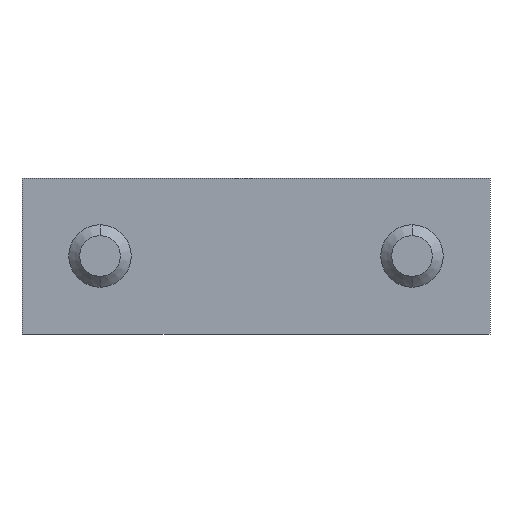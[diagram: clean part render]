
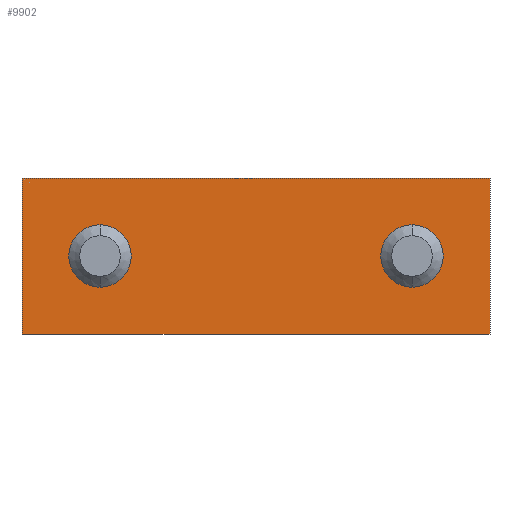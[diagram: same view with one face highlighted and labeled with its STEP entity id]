
A CAD part, front view. The second image highlights one B-rep face of the part: STEP entity #9902.
In plain terms, the highlighted planar face has unit normal (0, -1, 0).
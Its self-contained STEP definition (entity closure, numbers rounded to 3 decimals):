
#444 = CARTESIAN_POINT ( 'NONE',  ( -64.47, 29.419, 0. ) ) ;
#511 = EDGE_CURVE ( 'NONE', #10569, #19202, #17631, .T. ) ;
#587 = CARTESIAN_POINT ( 'NONE',  ( -71.47, 29.419, 5. ) ) ;
#671 = EDGE_CURVE ( 'NONE', #11227, #9600, #5471, .T. ) ;
#702 = CARTESIAN_POINT ( 'NONE',  ( -44.47, 29.419, 0. ) ) ;
#773 = CARTESIAN_POINT ( 'NONE',  ( -66.47, 29.419, 0. ) ) ;
#778 = EDGE_LOOP ( 'NONE', ( #13316, #7548, #10252, #9438 ) ) ;
#1852 = CARTESIAN_POINT ( 'NONE',  ( -56.47, 29.419, -5. ) ) ;
#1883 = FACE_OUTER_BOUND ( 'NONE', #778, .T. ) ;
#2281 = ORIENTED_EDGE ( 'NONE', *, *, #12134, .F. ) ;
#2491 = DIRECTION ( 'NONE',  ( 1., 0., 0. ) ) ;
#3374 = VECTOR ( 'NONE', #18722, 1000. ) ;
#3440 = VERTEX_POINT ( 'NONE', #14284 ) ;
#3627 = DIRECTION ( 'NONE',  ( 1., 0., 0. ) ) ;
#3829 = LINE ( 'NONE', #7927, #21543 ) ;
#4293 = CARTESIAN_POINT ( 'NONE',  ( -48.47, 29.419, 0. ) ) ;
#4449 = LINE ( 'NONE', #11923, #13056 ) ;
#4487 = AXIS2_PLACEMENT_3D ( 'NONE', #14303, #7200, #3627 ) ;
#4980 = DIRECTION ( 'NONE',  ( 0., 1., 0. ) ) ;
#5193 = CARTESIAN_POINT ( 'NONE',  ( -41.47, 29.419, 5. ) ) ;
#5471 = CIRCLE ( 'NONE', #4487, 2. ) ;
#5622 = DIRECTION ( 'NONE',  ( 0., -1., 0. ) ) ;
#5889 = VERTEX_POINT ( 'NONE', #587 ) ;
#6037 = DIRECTION ( 'NONE',  ( 0., -1., 0. ) ) ;
#6232 = AXIS2_PLACEMENT_3D ( 'NONE', #15935, #5622, #17680 ) ;
#6439 = FACE_BOUND ( 'NONE', #13999, .T. ) ;
#7031 = VERTEX_POINT ( 'NONE', #444 ) ;
#7200 = DIRECTION ( 'NONE',  ( 0., -1., 0. ) ) ;
#7310 = VECTOR ( 'NONE', #13897, 1000. ) ;
#7548 = ORIENTED_EDGE ( 'NONE', *, *, #18513, .T. ) ;
#7927 = CARTESIAN_POINT ( 'NONE',  ( -56.47, 29.419, 5. ) ) ;
#8396 = ORIENTED_EDGE ( 'NONE', *, *, #671, .F. ) ;
#8489 = ORIENTED_EDGE ( 'NONE', *, *, #17556, .T. ) ;
#9063 = CARTESIAN_POINT ( 'NONE',  ( -41.47, 29.419, -5. ) ) ;
#9438 = ORIENTED_EDGE ( 'NONE', *, *, #12223, .T. ) ;
#9600 = VERTEX_POINT ( 'NONE', #702 ) ;
#9627 = EDGE_CURVE ( 'NONE', #3440, #7031, #16705, .T. ) ;
#9670 = DIRECTION ( 'NONE',  ( -1., 0., 0. ) ) ;
#9902 = ADVANCED_FACE ( 'NONE', ( #6439, #10475, #1883 ), #21044, .T. ) ;
#10048 = CARTESIAN_POINT ( 'NONE',  ( -41.47, 29.419, 0. ) ) ;
#10201 = EDGE_LOOP ( 'NONE', ( #2281, #8396 ) ) ;
#10252 = ORIENTED_EDGE ( 'NONE', *, *, #511, .T. ) ;
#10475 = FACE_BOUND ( 'NONE', #10201, .T. ) ;
#10569 = VERTEX_POINT ( 'NONE', #9063 ) ;
#11059 = CIRCLE ( 'NONE', #14407, 2. ) ;
#11227 = VERTEX_POINT ( 'NONE', #4293 ) ;
#11923 = CARTESIAN_POINT ( 'NONE',  ( -71.47, 29.419, 0. ) ) ;
#12134 = EDGE_CURVE ( 'NONE', #9600, #11227, #11059, .T. ) ;
#12223 = EDGE_CURVE ( 'NONE', #19202, #5889, #3829, .T. ) ;
#12776 = DIRECTION ( 'NONE',  ( 0., 1., 0. ) ) ;
#13056 = VECTOR ( 'NONE', #13676, 1000. ) ;
#13316 = ORIENTED_EDGE ( 'NONE', *, *, #21943, .T. ) ;
#13676 = DIRECTION ( 'NONE',  ( 0., 0., -1. ) ) ;
#13897 = DIRECTION ( 'NONE',  ( 1., 0., 0. ) ) ;
#13999 = EDGE_LOOP ( 'NONE', ( #8489, #20589 ) ) ;
#14284 = CARTESIAN_POINT ( 'NONE',  ( -68.47, 29.419, 0. ) ) ;
#14303 = CARTESIAN_POINT ( 'NONE',  ( -46.47, 29.419, 0. ) ) ;
#14407 = AXIS2_PLACEMENT_3D ( 'NONE', #16338, #6037, #18094 ) ;
#15014 = VERTEX_POINT ( 'NONE', #18151 ) ;
#15274 = CARTESIAN_POINT ( 'NONE',  ( -66.47, 29.419, 0. ) ) ;
#15753 = AXIS2_PLACEMENT_3D ( 'NONE', #773, #12776, #2491 ) ;
#15935 = CARTESIAN_POINT ( 'NONE',  ( -71.47, 29.419, 5. ) ) ;
#16338 = CARTESIAN_POINT ( 'NONE',  ( -46.47, 29.419, 0. ) ) ;
#16705 = CIRCLE ( 'NONE', #15753, 2. ) ;
#16998 = DIRECTION ( 'NONE',  ( 1., 0., 0. ) ) ;
#17556 = EDGE_CURVE ( 'NONE', #7031, #3440, #21797, .T. ) ;
#17631 = LINE ( 'NONE', #10048, #3374 ) ;
#17680 = DIRECTION ( 'NONE',  ( 0., 0., -1. ) ) ;
#18049 = AXIS2_PLACEMENT_3D ( 'NONE', #15274, #4980, #16998 ) ;
#18094 = DIRECTION ( 'NONE',  ( 1., 0., 0. ) ) ;
#18151 = CARTESIAN_POINT ( 'NONE',  ( -71.47, 29.419, -5. ) ) ;
#18513 = EDGE_CURVE ( 'NONE', #15014, #10569, #18889, .T. ) ;
#18722 = DIRECTION ( 'NONE',  ( 0., 0., 1. ) ) ;
#18889 = LINE ( 'NONE', #1852, #7310 ) ;
#19202 = VERTEX_POINT ( 'NONE', #5193 ) ;
#20589 = ORIENTED_EDGE ( 'NONE', *, *, #9627, .T. ) ;
#21044 = PLANE ( 'NONE',  #6232 ) ;
#21543 = VECTOR ( 'NONE', #9670, 1000. ) ;
#21797 = CIRCLE ( 'NONE', #18049, 2. ) ;
#21943 = EDGE_CURVE ( 'NONE', #5889, #15014, #4449, .T. ) ;
